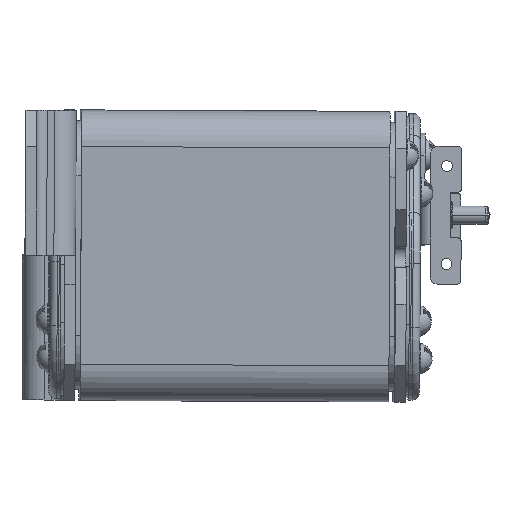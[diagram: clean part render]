
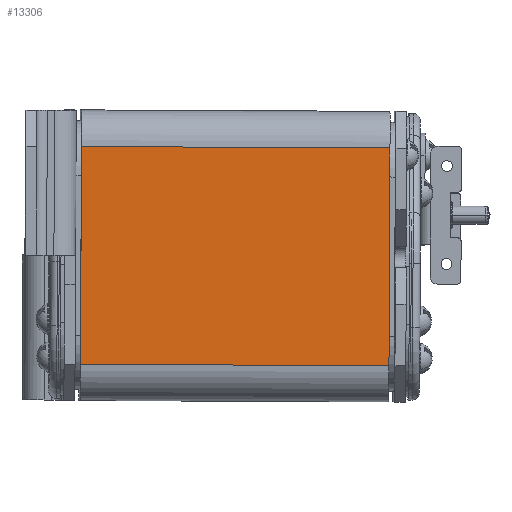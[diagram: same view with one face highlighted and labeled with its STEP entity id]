
A CAD part, front view. The second image highlights one B-rep face of the part: STEP entity #13306.
In plain terms, the highlighted planar face has unit normal (0.005, -1, -0.001) as drawn and (1, 0, 0) by its records, which use the part's own axes.
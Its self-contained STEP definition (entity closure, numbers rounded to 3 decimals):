
#1318 = EDGE_CURVE ( 'NONE', #9924, #7248, #1675, .T. ) ;
#1675 = LINE ( 'NONE', #2426, #17255 ) ;
#1804 = LINE ( 'NONE', #11081, #20816 ) ;
#2093 = ORIENTED_EDGE ( 'NONE', *, *, #9089, .T. ) ;
#2312 = DIRECTION ( 'NONE',  ( -1., 0., 0. ) ) ;
#2385 = PLANE ( 'NONE',  #16363 ) ;
#2426 = CARTESIAN_POINT ( 'NONE',  ( 40., 42.5, -30. ) ) ;
#3367 = CARTESIAN_POINT ( 'NONE',  ( 40., -42.5, 30. ) ) ;
#3647 = LINE ( 'NONE', #17012, #15758 ) ;
#3848 = DIRECTION ( 'NONE',  ( 0., -1., 0. ) ) ;
#4033 = DIRECTION ( 'NONE',  ( 0., -1., 0. ) ) ;
#4282 = DIRECTION ( 'NONE',  ( 0., 0., -1. ) ) ;
#5375 = LINE ( 'NONE', #12951, #19470 ) ;
#6018 = CARTESIAN_POINT ( 'NONE',  ( 40., 42.5, -30. ) ) ;
#7248 = VERTEX_POINT ( 'NONE', #10983 ) ;
#9089 = EDGE_CURVE ( 'NONE', #12995, #10965, #1804, .T. ) ;
#9924 = VERTEX_POINT ( 'NONE', #18977 ) ;
#10618 = EDGE_LOOP ( 'NONE', ( #2093, #15222, #15630, #22747 ) ) ;
#10907 = FACE_OUTER_BOUND ( 'NONE', #10618, .T. ) ;
#10965 = VERTEX_POINT ( 'NONE', #18435 ) ;
#10983 = CARTESIAN_POINT ( 'NONE',  ( 40., 42.5, -30. ) ) ;
#11081 = CARTESIAN_POINT ( 'NONE',  ( 40., -42.5, -30. ) ) ;
#11239 = DIRECTION ( 'NONE',  ( 0., 0., -1. ) ) ;
#12951 = CARTESIAN_POINT ( 'NONE',  ( 40., 42.5, 30. ) ) ;
#12995 = VERTEX_POINT ( 'NONE', #3367 ) ;
#13263 = DIRECTION ( 'NONE',  ( 0., 0., 1. ) ) ;
#13306 = ADVANCED_FACE ( 'NONE', ( #10907 ), #2385, .F. ) ;
#13879 = EDGE_CURVE ( 'NONE', #7248, #10965, #3647, .T. ) ;
#14567 = EDGE_CURVE ( 'NONE', #9924, #12995, #5375, .T. ) ;
#15222 = ORIENTED_EDGE ( 'NONE', *, *, #13879, .F. ) ;
#15630 = ORIENTED_EDGE ( 'NONE', *, *, #1318, .F. ) ;
#15758 = VECTOR ( 'NONE', #4033, 1000. ) ;
#16363 = AXIS2_PLACEMENT_3D ( 'NONE', #6018, #2312, #13263 ) ;
#17012 = CARTESIAN_POINT ( 'NONE',  ( 40., 42.5, -30. ) ) ;
#17255 = VECTOR ( 'NONE', #4282, 1000. ) ;
#18435 = CARTESIAN_POINT ( 'NONE',  ( 40., -42.5, -30. ) ) ;
#18977 = CARTESIAN_POINT ( 'NONE',  ( 40., 42.5, 30. ) ) ;
#19470 = VECTOR ( 'NONE', #3848, 1000. ) ;
#20816 = VECTOR ( 'NONE', #11239, 1000. ) ;
#22747 = ORIENTED_EDGE ( 'NONE', *, *, #14567, .T. ) ;
